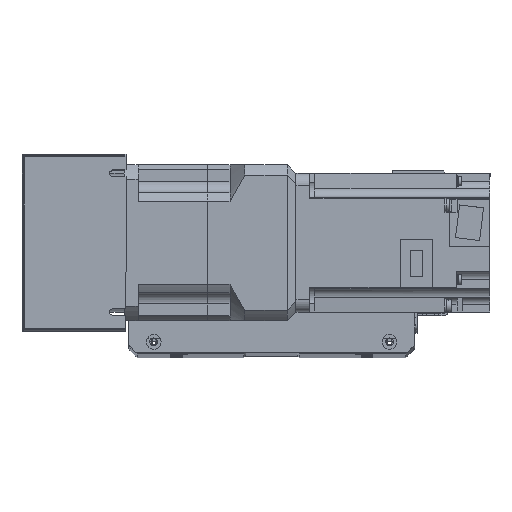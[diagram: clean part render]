
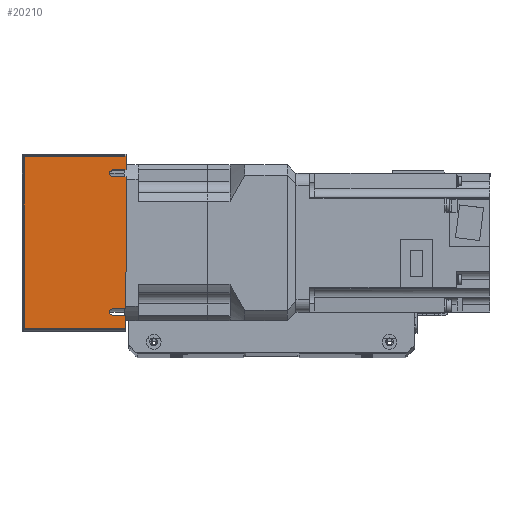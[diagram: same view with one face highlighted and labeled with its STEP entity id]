
A CAD part, top view. The second image highlights one B-rep face of the part: STEP entity #20210.
In plain terms, the highlighted planar face has unit normal (0, 0, 1) as drawn and (-1, 0, 0) by its records, which use the part's own axes.
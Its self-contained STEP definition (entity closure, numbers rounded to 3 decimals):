
#591=PLANE('',#22028);
#1679=LINE('',#32447,#3339);
#1685=LINE('',#32461,#3345);
#1697=LINE('',#32488,#3357);
#1707=LINE('',#32510,#3367);
#1715=LINE('',#32530,#3375);
#1716=LINE('',#32532,#3376);
#1717=LINE('',#32534,#3377);
#1718=LINE('',#32536,#3378);
#1719=LINE('',#32537,#3379);
#1720=LINE('',#32539,#3380);
#3339=VECTOR('',#26268,10.);
#3345=VECTOR('',#26278,10.);
#3357=VECTOR('',#26296,10.);
#3367=VECTOR('',#26310,10.);
#3375=VECTOR('',#26332,10.);
#3376=VECTOR('',#26333,10.);
#3377=VECTOR('',#26334,10.);
#3378=VECTOR('',#26335,10.);
#3379=VECTOR('',#26336,10.);
#3380=VECTOR('',#26339,10.);
#5397=FACE_OUTER_BOUND('',#6861,.T.);
#6861=EDGE_LOOP('',(#16278,#16279,#16280,#16281,#16282,#16283,#16284,#16285,
#16286,#16287,#16288,#16289));
#8309=CIRCLE('',#22023,2.);
#8313=CIRCLE('',#22029,2.);
#9758=VERTEX_POINT('',#32444);
#9759=VERTEX_POINT('',#32446);
#9764=VERTEX_POINT('',#32459);
#9765=VERTEX_POINT('',#32460);
#9776=VERTEX_POINT('',#32486);
#9777=VERTEX_POINT('',#32487);
#9786=VERTEX_POINT('',#32507);
#9787=VERTEX_POINT('',#32509);
#9792=VERTEX_POINT('',#32529);
#9793=VERTEX_POINT('',#32531);
#9794=VERTEX_POINT('',#32533);
#9795=VERTEX_POINT('',#32535);
#12121=EDGE_CURVE('',#9759,#9758,#1679,.T.);
#12127=EDGE_CURVE('',#9764,#9765,#1685,.T.);
#12139=EDGE_CURVE('',#9776,#9777,#1697,.T.);
#12149=EDGE_CURVE('',#9787,#9786,#1707,.T.);
#12151=EDGE_CURVE('',#9765,#9759,#8309,.T.);
#12161=EDGE_CURVE('',#9792,#9758,#1715,.T.);
#12162=EDGE_CURVE('',#9793,#9792,#1716,.T.);
#12163=EDGE_CURVE('',#9794,#9793,#1717,.T.);
#12164=EDGE_CURVE('',#9795,#9794,#1718,.T.);
#12165=EDGE_CURVE('',#9776,#9795,#1719,.T.);
#12166=EDGE_CURVE('',#9777,#9787,#8313,.T.);
#12167=EDGE_CURVE('',#9764,#9786,#1720,.T.);
#16278=ORIENTED_EDGE('',*,*,#12121,.T.);
#16279=ORIENTED_EDGE('',*,*,#12161,.F.);
#16280=ORIENTED_EDGE('',*,*,#12162,.F.);
#16281=ORIENTED_EDGE('',*,*,#12163,.F.);
#16282=ORIENTED_EDGE('',*,*,#12164,.F.);
#16283=ORIENTED_EDGE('',*,*,#12165,.F.);
#16284=ORIENTED_EDGE('',*,*,#12139,.T.);
#16285=ORIENTED_EDGE('',*,*,#12166,.T.);
#16286=ORIENTED_EDGE('',*,*,#12149,.T.);
#16287=ORIENTED_EDGE('',*,*,#12167,.F.);
#16288=ORIENTED_EDGE('',*,*,#12127,.T.);
#16289=ORIENTED_EDGE('',*,*,#12151,.T.);
#20210=ADVANCED_FACE('',(#5397),#591,.T.);
#22023=AXIS2_PLACEMENT_3D('',#32513,#26314,#26315);
#22028=AXIS2_PLACEMENT_3D('',#32528,#26330,#26331);
#22029=AXIS2_PLACEMENT_3D('',#32538,#26337,#26338);
#26268=DIRECTION('',(0.,0.,1.));
#26278=DIRECTION('',(0.,0.,-1.));
#26296=DIRECTION('',(0.,0.,-1.));
#26310=DIRECTION('',(0.,0.,1.));
#26314=DIRECTION('center_axis',(1.,0.,0.));
#26315=DIRECTION('ref_axis',(0.,0.,-1.));
#26330=DIRECTION('center_axis',(-1.,0.,0.));
#26331=DIRECTION('ref_axis',(0.,-1.,0.));
#26332=DIRECTION('',(0.,-1.,0.));
#26333=DIRECTION('',(0.,0.,1.));
#26334=DIRECTION('',(0.,1.,0.));
#26335=DIRECTION('',(0.,0.,-1.));
#26336=DIRECTION('',(0.,-1.,0.));
#26337=DIRECTION('center_axis',(1.,0.,0.));
#26338=DIRECTION('ref_axis',(0.,0.,-1.));
#26339=DIRECTION('',(0.,-1.,0.));
#32444=CARTESIAN_POINT('',(-120.5,42.,30.));
#32446=CARTESIAN_POINT('',(-120.5,42.,22.5));
#32447=CARTESIAN_POINT('',(-120.5,42.,16.304));
#32459=CARTESIAN_POINT('',(-120.5,38.,30.));
#32460=CARTESIAN_POINT('',(-120.5,38.,22.5));
#32461=CARTESIAN_POINT('',(-120.5,38.,11.25));
#32486=CARTESIAN_POINT('',(-120.5,-42.,30.));
#32487=CARTESIAN_POINT('',(-120.5,-42.,22.5));
#32488=CARTESIAN_POINT('',(-120.5,-42.,11.25));
#32507=CARTESIAN_POINT('',(-120.5,-38.,30.));
#32509=CARTESIAN_POINT('',(-120.5,-38.,22.5));
#32510=CARTESIAN_POINT('',(-120.5,-38.,16.169));
#32513=CARTESIAN_POINT('Origin',(-120.5,40.,22.5));
#32528=CARTESIAN_POINT('Origin',(-120.5,51.,0.));
#32529=CARTESIAN_POINT('',(-120.5,50.,30.));
#32530=CARTESIAN_POINT('',(-120.5,-51.,30.));
#32531=CARTESIAN_POINT('',(-120.5,50.,-29.));
#32532=CARTESIAN_POINT('',(-120.5,50.,0.));
#32533=CARTESIAN_POINT('',(-120.5,-50.,-29.));
#32534=CARTESIAN_POINT('',(-120.5,25.5,-29.));
#32535=CARTESIAN_POINT('',(-120.5,-50.,30.));
#32536=CARTESIAN_POINT('',(-120.5,-50.,0.));
#32537=CARTESIAN_POINT('',(-120.5,-51.,30.));
#32538=CARTESIAN_POINT('Origin',(-120.5,-40.,22.5));
#32539=CARTESIAN_POINT('',(-120.5,-51.,30.));
